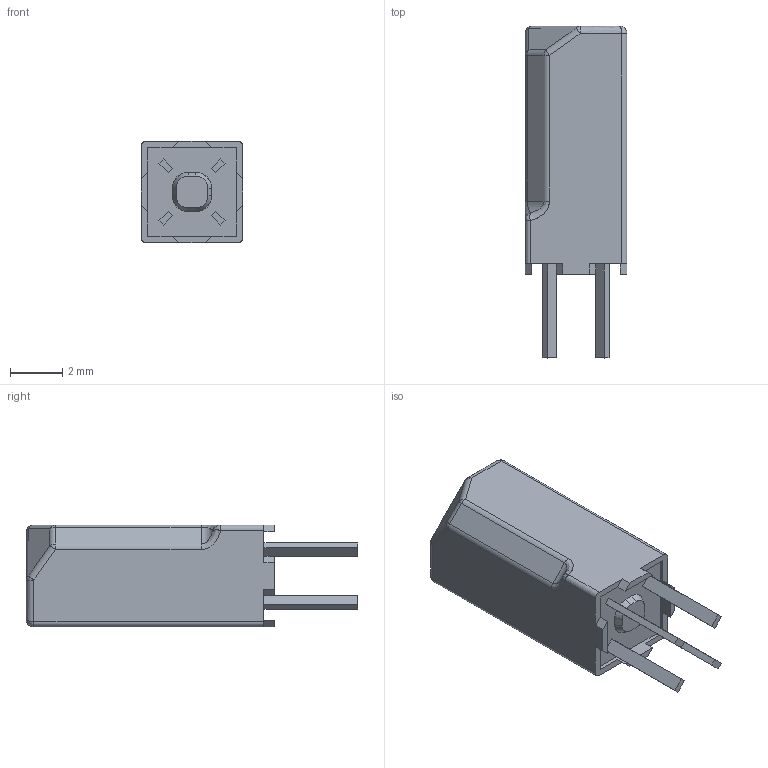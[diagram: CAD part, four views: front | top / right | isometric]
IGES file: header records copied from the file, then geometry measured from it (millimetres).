
Start section: SolidWorks IGES file using analytic representation for surfaces
Global section: file name: R:\00 - SolidWorks\120 Box\Version for Website 3D Models\124-1-A-5-2.IGS; native system: SolidWorks 2017; preprocessor: SolidWorks 2017; author: elton.taylor; date: 180611.115114; units: millimetre
Bounding box: 3.9 x 12.7 x 3.9 mm (x, y, z)
Surface area: 193.8 mm2 (no closed solid volume)
Topology: 0 solids, 0 shells, 372 faces, 3389 edges, 3383 vertices
Faces by surface type: bspline 349, revolution 23
